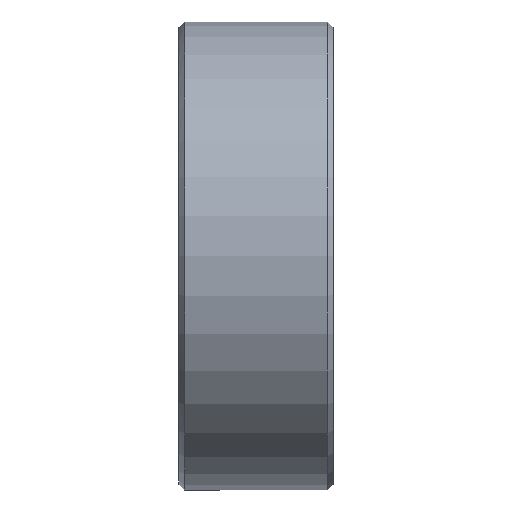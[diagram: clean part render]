
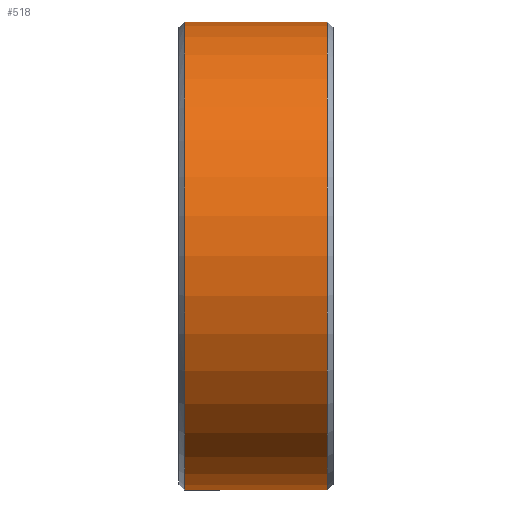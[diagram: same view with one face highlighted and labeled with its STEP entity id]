
A CAD part, top view. The second image highlights one B-rep face of the part: STEP entity #518.
In plain terms, the highlighted cylindrical face has radius 41 mm (diameter 82 mm), a partial arc.
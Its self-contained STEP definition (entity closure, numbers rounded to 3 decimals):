
#477=CARTESIAN_POINT('',(0.0,0.0,0.0));
#478=DIRECTION('',(-1.0,0.0,0.0));
#479=DIRECTION('',(0.0,-1.0,0.0));
#480=AXIS2_PLACEMENT_3D('',#477,#478,#479);
#481=CYLINDRICAL_SURFACE('',#480,41.);
#482=CARTESIAN_POINT('',(-26.0,-9.,-40.0));
#483=VERTEX_POINT('',#482);
#484=CARTESIAN_POINT('',(-26.0,9.,-40.0));
#485=VERTEX_POINT('',#484);
#486=CARTESIAN_POINT('',(-26.0,0.0,0.0));
#487=DIRECTION('',(-1.0,0.0,0.0));
#488=DIRECTION('',(0.0,-1.0,0.0));
#489=AXIS2_PLACEMENT_3D('',#486,#487,#488);
#490=CIRCLE('',#489,41.);
#491=EDGE_CURVE('',#483,#485,#490,.T.);
#492=ORIENTED_EDGE('',*,*,#491,.F.);
#493=CARTESIAN_POINT('',(-1.0,-9.,-40.0));
#494=VERTEX_POINT('',#493);
#495=CARTESIAN_POINT('',(-26.0,-9.,-40.0));
#496=DIRECTION('',(1.0,0.0,0.0));
#497=VECTOR('',#496,25.0);
#498=LINE('',#495,#497);
#499=EDGE_CURVE('',#483,#494,#498,.T.);
#500=ORIENTED_EDGE('',*,*,#499,.T.);
#501=CARTESIAN_POINT('',(-1.0,9.,-40.0));
#502=VERTEX_POINT('',#501);
#503=CARTESIAN_POINT('',(-1.0,0.0,0.0));
#504=DIRECTION('',(1.0,0.0,0.0));
#505=DIRECTION('',(0.0,-1.0,0.0));
#506=AXIS2_PLACEMENT_3D('',#503,#504,#505);
#507=CIRCLE('',#506,41.);
#508=EDGE_CURVE('',#502,#494,#507,.T.);
#509=ORIENTED_EDGE('',*,*,#508,.F.);
#510=CARTESIAN_POINT('',(-1.0,9.,-40.0));
#511=DIRECTION('',(-1.0,0.0,0.0));
#512=VECTOR('',#511,25.0);
#513=LINE('',#510,#512);
#514=EDGE_CURVE('',#502,#485,#513,.T.);
#515=ORIENTED_EDGE('',*,*,#514,.T.);
#516=EDGE_LOOP('',(#492,#500,#509,#515));
#517=FACE_OUTER_BOUND('',#516,.T.);
#518=ADVANCED_FACE('',(#517),#481,.T.);
